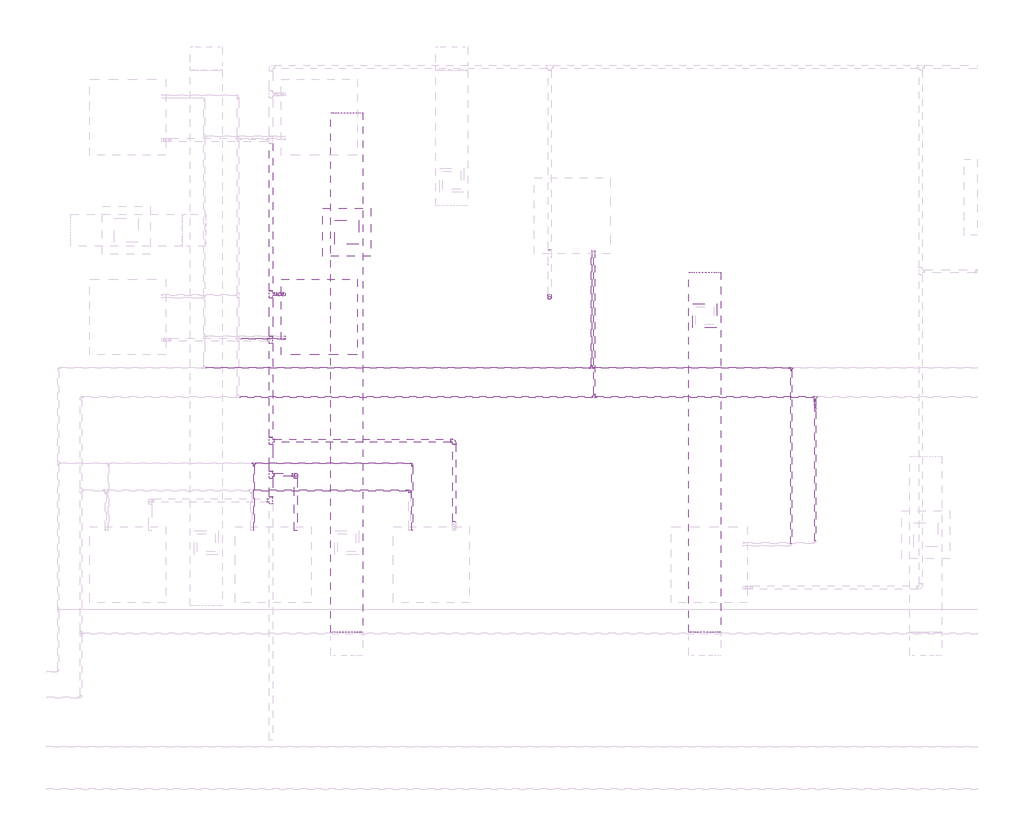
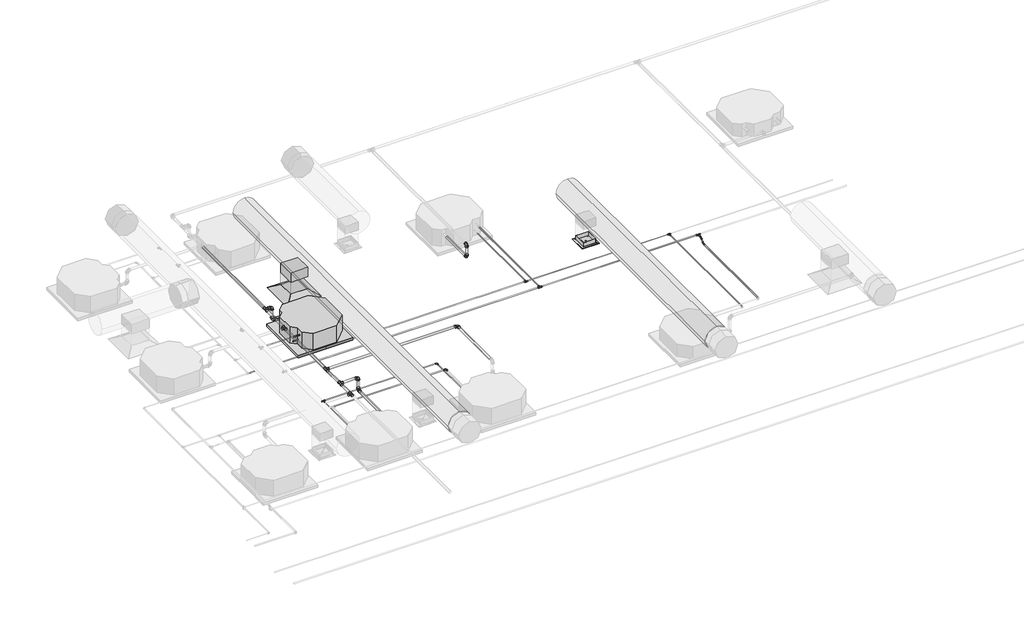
# One storey, part 15 of 22: 30 pipe fittings, 30 pipe segments, 3 duct segments, 2 air terminals, 1 duct fitting, 1 proxy.
"""IFC4 building model written with IfcOpenShell, lengths in millimetres."""

from ifc_helpers import new_model, si_unit, point, frame, frame_2d, origin, place, context, project, spatial, polyline, circle_curve, trimmed, segment, composite_curve, outline, extrude, transform, mapped, element, save
from components import air_terminal_ff221211, sdq3535_a75e83f7, mechanical_equipment_53173f38, duct_fitting_95c1ddea, pipe_fitting_144f4440, pipe_fitting_14eb6376, pipe_fitting_50f5d43d, pipe_fitting_337ff715, pipe_fitting_16c020f5, pipe_fitting_afe73776, pipe_fitting_a9265b51, pipe_fitting_09966660, pipe_fitting_64d0e8e9, pipe_fitting_501e5992, pipe_fitting_59d1f3e3, pipe_fitting_da16c1b3, pipe_fitting_3474c4ef, pipe_fitting_5a6d96d3, pipe_fitting_3e80353c

model = new_model("IFC4")

# Units and contexts
model_context = context("Model", 3, world=origin())
ifc_project = project(units=[si_unit("LENGTHUNIT", "METRE", prefix="MILLI")], contexts=[model_context])

# Site, building, storey
site = spatial("IfcSite", under=ifc_project)
building = spatial("IfcBuilding", under=site)
storey = spatial("IfcBuildingStorey", under=building, Name="Nível 2", Elevation=3880.0)

# Air terminals
placement = place(None, origin())
air_terminal_shape = air_terminal_ff221211(model_context)
element("IfcAirTerminal", 1, ObjectType="M_Difusor de fornecimento : 600 x 600 Face 300 x 300 Conexão", at=placement, inside=storey, context=model_context, shape_type="MappedRepresentation", body=[
    mapped(air_terminal_shape, transform((1245.4274207, 7440.3103139, 6880.0), x_axis=(1.0, 0.0, 0.0), y_axis=(0.0, 1.0, 0.0), z_axis=(0.0, 0.0, 1.0))),
])
sdq3535_shape = sdq3535_a75e83f7(model_context)
element("IfcAirTerminal", 2, ObjectType="11 - Difusor Quadrado : SDQ3535", at=placement, inside=storey, context=model_context, shape_type="MappedRepresentation", body=[
    mapped(sdq3535_shape, transform((5726.1234834, 6394.027526, 6880.0), x_axis=(1.0, 0.0, 0.0), y_axis=(0.0, 1.0, 0.0), z_axis=(0.0, 0.0, 1.0))),
])

# Proxy
mechanical_equipment_shape = mechanical_equipment_53173f38(model_context)
element("IfcBuildingElementProxy", 3, Name="Midea_VRF_Indoor_4-way Cassette_MI-90(100,112,140)Q4_DHN1-D (2nd DC) : MI2-140Q4DHN1", ObjectType="Midea_VRF_Indoor_4-way Cassette_MI-90(100,112,140)Q4_DHN1-D (2nd DC) : MI2-140Q4DHN1", at=placement, inside=storey, context=model_context, shape_type="MappedRepresentation", body=[
    mapped(mechanical_equipment_shape, transform((904.1415592, 6380.8653729, 6880.0), x_axis=(-1.0, 0.0, 0.0), y_axis=(0.0, -1.0, 0.0), z_axis=(0.0, 0.0, 1.0))),
])

# Duct fitting
duct_fitting_shape = duct_fitting_95c1ddea(model_context)
element("IfcDuctFitting", 4, ObjectType="M_Encaixe de duto retangular : Padrão", at=placement, inside=storey, context=model_context, shape_type="MappedRepresentation", body=[
    mapped(duct_fitting_shape, transform((1245.4274207, 7440.3103139, 7301.0), x_axis=(0.0, 0.0, -1.0), y_axis=(0.0, -1.0, 0.0), z_axis=(-1.0, 0.0, 0.0))),
])

# Duct segments
element("IfcDuctSegment", 5, ObjectType="Torneiras / Raio curto", at=placement, inside=storey, context=model_context, shape_type="SweptSolid", body=[
    extrude(outline(composite_curve([segment(trimmed(circle_curve(frame_2d((7501.0, 5726.1234834)), 200.0), [point((7501.0, 5926.1234834))], [point((7701.0, 5726.1234834))], False, "CARTESIAN"), True, "CONTINUOUS"), segment(trimmed(circle_curve(frame_2d((7501.0, 5726.1234834)), 200.0), [point((7701.0, 5726.1234834))], [point((7501.0, 5526.1234834))], False, "CARTESIAN"), True, "CONTINUOUS"), segment(trimmed(circle_curve(frame_2d((7501.0, 5726.1234834)), 200.0), [point((7501.0, 5526.1234834))], [point((7301.0, 5726.1234834))], False, "CARTESIAN"), True, "CONTINUOUS"), segment(trimmed(circle_curve(frame_2d((7501.0, 5726.1234834)), 200.0), [point((7301.0, 5726.1234834))], [point((7501.0, 5926.1234834))], False, "CARTESIAN"), True, "CONTINUOUS")], self_intersect=False)), frame((0.0, 2438.9539749, 0.0), z_axis=(0.0, 1.0, 0.0), x_axis=(0.0, 0.0, 1.0)), (0.0, 0.0, 1.0), 4498.4),
])
element("IfcDuctSegment", 6, ObjectType="Torneiras / Raio curto", at=placement, inside=storey, context=model_context, shape_type="SweptSolid", body=[
    extrude(outline(composite_curve([segment(trimmed(circle_curve(frame_2d((7501.0, 1245.4274207)), 200.0), [point((7501.0, 1445.4274207))], [point((7701.0, 1245.4274207))], False, "CARTESIAN"), True, "CONTINUOUS"), segment(trimmed(circle_curve(frame_2d((7501.0, 1245.4274207)), 200.0), [point((7701.0, 1245.4274207))], [point((7501.0, 1045.4274207))], False, "CARTESIAN"), True, "CONTINUOUS"), segment(trimmed(circle_curve(frame_2d((7501.0, 1245.4274207)), 200.0), [point((7501.0, 1045.4274207))], [point((7301.0, 1245.4274207))], False, "CARTESIAN"), True, "CONTINUOUS"), segment(trimmed(circle_curve(frame_2d((7501.0, 1245.4274207)), 200.0), [point((7301.0, 1245.4274207))], [point((7501.0, 1445.4274207))], False, "CARTESIAN"), True, "CONTINUOUS")], self_intersect=False)), frame((0.0, 2438.9539749, 0.0), z_axis=(0.0, 1.0, 0.0), x_axis=(0.0, 0.0, 1.0)), (0.0, 0.0, 1.0), 6498.4),
])
element("IfcDuctSegment", 7, ObjectType="Raios cotovelos / torneiras", at=placement, inside=storey, context=model_context, shape_type="SweptSolid", body=[
    extrude(outline(polyline([(1395.4274207, 7590.3103139), (1395.4274207, 7290.3103139), (1095.4274207, 7290.3103139), (1095.4274207, 7590.3103139), (1395.4274207, 7590.3103139)])), frame((0.0, 0.0, 6981.6), z_axis=(0.0, 0.0, 1.0), x_axis=(1.0, 0.0, 0.0)), (0.0, 0.0, 1.0), 217.8),
])

# Pipe fittings
pipe_fitting_shape = pipe_fitting_144f4440(model_context)
element("IfcPipeFitting", 8, ObjectType="Cotovelo - PVC - CW : Padrão", at=placement, inside=storey, context=model_context, shape_type="MappedRepresentation", body=[
    mapped(pipe_fitting_shape, transform((3783.0309344, 6622.3186987, 7360.6313654), x_axis=(0.0, 0.0, 1.0), y_axis=(0.0, 1.0, 0.0), z_axis=(-1.0, 0.0, 0.0))),
])
element("IfcPipeFitting", 9, ObjectType="Cotovelo - PVC - CW : Padrão", at=placement, inside=storey, context=model_context, shape_type="MappedRepresentation", body=[
    mapped(pipe_fitting_shape, transform((408.7418117, 6665.8653729, 7132.3085101), x_axis=(-1.0, 0.0, 0.0), y_axis=(0.0, 0.0, 1.0), z_axis=(0.0, 1.0, 0.0))),
])
element("IfcPipeFitting", 10, ObjectType="Cotovelo - PVC - CW : Padrão", at=placement, inside=storey, context=model_context, shape_type="MappedRepresentation", body=[
    mapped(pipe_fitting_shape, transform((408.7418117, 6665.8653729, 7360.6313654), x_axis=(0.0, 0.0, 1.0), y_axis=(-1.0, 0.0, 0.0), z_axis=(0.0, -1.0, 0.0))),
])
element("IfcPipeFitting", 11, ObjectType="Cotovelo - PVC - CW : Padrão", at=placement, inside=storey, context=model_context, shape_type="MappedRepresentation", body=[
    mapped(pipe_fitting_shape, transform((609.1415592, 4405.8653729, 7360.6313654), x_axis=(0.0, 0.0, 1.0), y_axis=(-1.0, 0.0, 0.0), z_axis=(0.0, -1.0, 0.0))),
])
element("IfcPipeFitting", 12, ObjectType="Cotovelo - PVC - CW : Padrão", at=placement, inside=storey, context=model_context, shape_type="MappedRepresentation", body=[
    mapped(pipe_fitting_shape, transform((2589.1415592, 4833.7830554, 7360.6313654), x_axis=(0.0, 1.0, 0.0), y_axis=(-1.0, 0.0, 0.0), z_axis=(0.0, 0.0, 1.0))),
])
pipe_fitting_2_shape = pipe_fitting_14eb6376(model_context)
element("IfcPipeFitting", 13, ObjectType="Tê de redução - PVC - CW : Padrão", at=placement, inside=storey, context=model_context, shape_type="MappedRepresentation", body=[
    mapped(pipe_fitting_2_shape, transform((297.3882959, 6665.8653729, 7360.6313654), x_axis=(0.0, 1.0, 0.0), y_axis=(-1.0, 0.0, 0.0), z_axis=(0.0, 0.0, 1.0))),
])
element("IfcPipeFitting", 14, ObjectType="Tê de redução - PVC - CW : Padrão", at=placement, inside=storey, context=model_context, shape_type="MappedRepresentation", body=[
    mapped(pipe_fitting_2_shape, transform((297.3882959, 6095.8653729, 7360.6313654), x_axis=(0.0, 1.0, 0.0), y_axis=(1.0, 0.0, 0.0), z_axis=(0.0, 0.0, -1.0))),
])
element("IfcPipeFitting", 15, ObjectType="Tê de redução - PVC - CW : Padrão", at=placement, inside=storey, context=model_context, shape_type="MappedRepresentation", body=[
    mapped(pipe_fitting_2_shape, transform((297.3882959, 4085.8653728, 7360.6313654), x_axis=(0.0, 1.0, 0.0), y_axis=(1.0, 0.0, 0.0), z_axis=(0.0, 0.0, -1.0))),
])
element("IfcPipeFitting", 16, ObjectType="Tê de redução - PVC - CW : Padrão", at=placement, inside=storey, context=model_context, shape_type="MappedRepresentation", body=[
    mapped(pipe_fitting_2_shape, transform((297.3882959, 4405.8653729, 7360.6313654), x_axis=(0.0, 1.0, 0.0), y_axis=(-1.0, 0.0, 0.0), z_axis=(0.0, 0.0, 1.0))),
])
element("IfcPipeFitting", 17, ObjectType="Tê de redução - PVC - CW : Padrão", at=placement, inside=storey, context=model_context, shape_type="MappedRepresentation", body=[
    mapped(pipe_fitting_2_shape, transform((297.3882959, 4833.7830554, 7360.6313654), x_axis=(0.0, 1.0, 0.0), y_axis=(-1.0, 0.0, 0.0), z_axis=(0.0, 0.0, 1.0))),
])
pipe_fitting_3_shape = pipe_fitting_50f5d43d(model_context)
element("IfcPipeFitting", 18, ObjectType="Cotovelo - PVC - CW : Padrão", at=placement, inside=storey, context=model_context, shape_type="MappedRepresentation", body=[
    mapped(pipe_fitting_3_shape, transform((3783.0309344, 6622.3186987, 7132.3), x_axis=(0.0, -0.9999999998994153, -1.418342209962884e-05), y_axis=(0.0, -1.418342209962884e-05, 0.9999999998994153), z_axis=(-1.0, 0.0, 0.0))),
])
pipe_fitting_4_shape = pipe_fitting_337ff715(model_context)
element("IfcPipeFitting", 19, ObjectType="Cotovelo - PVC - CW : Padrão", at=placement, inside=storey, context=model_context, shape_type="MappedRepresentation", body=[
    mapped(pipe_fitting_4_shape, transform((609.1415592, 4405.8653729, 7132.3), x_axis=(0.0, 0.9999999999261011, -1.2157218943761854e-05), y_axis=(0.0, 1.2157218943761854e-05, 0.9999999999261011), z_axis=(1.0, 0.0, 0.0))),
])
pipe_fitting_5_shape = pipe_fitting_16c020f5(model_context)
element("IfcPipeFitting", 20, ObjectType="Cotovelo - Soldado - CU : Padrão", at=placement, inside=storey, context=model_context, shape_type="MappedRepresentation", body=[
    mapped(pipe_fitting_5_shape, transform((2030.9307455, 4212.8510207, 7132.3), x_axis=(0.0, 0.9999999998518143, -1.7215441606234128e-05), y_axis=(-1.0, 0.0, 0.0), z_axis=(0.0, 1.7215441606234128e-05, 0.9999999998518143))),
])
pipe_fitting_6_shape = pipe_fitting_afe73776(model_context)
element("IfcPipeFitting", 21, ObjectType="Bucha de redução reta - Soldada - CU : Padrão", at=placement, inside=storey, context=model_context, shape_type="MappedRepresentation", body=[
    mapped(pipe_fitting_6_shape, transform((4341.241748, 5410.19297, 7132.3001605), x_axis=(0.0, 0.9999999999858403, 5.321602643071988e-06), y_axis=(-1.0, 0.0, 0.0), z_axis=(0.0, -5.321602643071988e-06, 0.9999999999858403))),
])
element("IfcPipeFitting", 22, ObjectType="Bucha de redução reta - Soldada - CU : Padrão", at=placement, inside=storey, context=model_context, shape_type="MappedRepresentation", body=[
    mapped(pipe_fitting_6_shape, transform((7104.8254008, 5340.0407531, 7132.3), x_axis=(0.0, -1.0, 0.0), y_axis=(1.0, 0.0, 0.0), z_axis=(0.0, 0.0, 1.0))),
])
pipe_fitting_7_shape = pipe_fitting_a9265b51(model_context)
element("IfcPipeFitting", 23, ObjectType="Cotovelo - Soldado - CU : Padrão", at=placement, inside=storey, context=model_context, shape_type="MappedRepresentation", body=[
    mapped(pipe_fitting_7_shape, transform((7104.8254008, 5298.4032531, 7132.3), x_axis=(0.0, -1.0, 0.0), y_axis=(0.0, 0.0, -1.0), z_axis=(1.0, 0.0, 0.0))),
])
element("IfcPipeFitting", 24, ObjectType="Cotovelo - Soldado - CU : Padrão", at=placement, inside=storey, context=model_context, shape_type="MappedRepresentation", body=[
    mapped(pipe_fitting_7_shape, transform((7104.8254008, 5228.4032531, 7062.3), x_axis=(0.0, -0.7071067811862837, -0.7071067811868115), y_axis=(0.0, -0.7071067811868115, 0.7071067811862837), z_axis=(-1.0, 0.0, 0.0))),
])
pipe_fitting_8_shape = pipe_fitting_09966660(model_context)
element("IfcPipeFitting", 25, ObjectType="Tê - Soldado - CU : Padrão", at=placement, inside=storey, context=model_context, shape_type="MappedRepresentation", body=[
    mapped(pipe_fitting_8_shape, transform((4341.241748, 5380.03247, 7132.3), x_axis=(-1.0, 0.0, 0.0), y_axis=(0.0, -0.9999999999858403, -5.321602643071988e-06), z_axis=(0.0, -5.321602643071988e-06, 0.9999999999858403))),
])
element("IfcPipeFitting", 26, ObjectType="Tê - Soldado - CU : Padrão", at=placement, inside=storey, context=model_context, shape_type="MappedRepresentation", body=[
    mapped(pipe_fitting_8_shape, transform((7104.8254008, 5380.03247, 7132.3), x_axis=(-1.0, 0.0, 0.0), y_axis=(0.0, 1.0, 0.0), z_axis=(0.0, 0.0, -1.0))),
])
pipe_fitting_9_shape = pipe_fitting_64d0e8e9(model_context)
element("IfcPipeFitting", 27, ObjectType="Bucha de redução reta - Soldada - CU : Padrão", at=placement, inside=storey, context=model_context, shape_type="MappedRepresentation", body=[
    mapped(pipe_fitting_9_shape, transform((2001.9521455, 4212.8510207, 7132.3), x_axis=(-1.0, 0.0, 0.0), y_axis=(0.0, -0.9999999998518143, 1.7215441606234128e-05), z_axis=(0.0, 1.7215441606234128e-05, 0.9999999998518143))),
])
pipe_fitting_10_shape = pipe_fitting_501e5992(model_context)
element("IfcPipeFitting", 28, ObjectType="Bucha de redução reta - Soldada - CU : Padrão", at=placement, inside=storey, context=model_context, shape_type="MappedRepresentation", body=[
    mapped(pipe_fitting_10_shape, transform((466.4826592, 6107.6545593, 7132.3083789), x_axis=(0.9999999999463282, 0.0, 1.0360678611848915e-05), y_axis=(0.0, 1.0, 0.0), z_axis=(-1.0360678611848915e-05, 0.0, 0.9999999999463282))),
])
pipe_fitting_11_shape = pipe_fitting_59d1f3e3(model_context)
element("IfcPipeFitting", 29, ObjectType="Bucha de redução reta - Soldada - CU : Padrão", at=placement, inside=storey, context=model_context, shape_type="MappedRepresentation", body=[
    mapped(pipe_fitting_11_shape, transform((479.1415592, 6141.4570011, 7026.8446487), x_axis=(-1.0, 0.0, 0.0), y_axis=(0.0, -1.0, 0.0), z_axis=(0.0, 0.0, 1.0))),
])
pipe_fitting_12_shape = pipe_fitting_da16c1b3(model_context)
element("IfcPipeFitting", 30, ObjectType="Tê - Soldado - CU : Padrão", at=placement, inside=storey, context=model_context, shape_type="MappedRepresentation", body=[
    mapped(pipe_fitting_12_shape, transform((6804.8254008, 5743.0785153, 7026.8446487), x_axis=(1.0, 0.0, 0.0), y_axis=(0.0, 1.0, 0.0), z_axis=(0.0, 0.0, 1.0))),
])
element("IfcPipeFitting", 31, ObjectType="Tê - Soldado - CU : Padrão", at=placement, inside=storey, context=model_context, shape_type="MappedRepresentation", body=[
    mapped(pipe_fitting_12_shape, transform((4307.4393062, 5743.0785153, 7026.8446487), x_axis=(1.0, 0.0, 0.0), y_axis=(0.0, -1.0, 0.0), z_axis=(0.0, 0.0, -1.0))),
])
element("IfcPipeFitting", 32, ObjectType="Tê - Soldado - CU : Padrão", at=placement, inside=storey, context=model_context, shape_type="MappedRepresentation", body=[
    mapped(pipe_fitting_12_shape, transform((84.7331873, 4550.568265, 7026.8446487), x_axis=(-1.0, 0.0, 0.0), y_axis=(0.0, 1.0, 0.0), z_axis=(0.0, 0.0, -1.0))),
])
pipe_fitting_13_shape = pipe_fitting_3474c4ef(model_context)
element("IfcPipeFitting", 33, ObjectType="Bucha de redução reta - Soldada - CU : Padrão", at=placement, inside=storey, context=model_context, shape_type="MappedRepresentation", body=[
    mapped(pipe_fitting_13_shape, transform((4307.4393062, 5768.0955153, 7026.8446487), x_axis=(0.0, 1.0, 0.0), y_axis=(-1.0, 0.0, 0.0), z_axis=(0.0, 0.0, 1.0))),
])
pipe_fitting_14_shape = pipe_fitting_5a6d96d3(model_context)
element("IfcPipeFitting", 34, ObjectType="Bucha de redução reta - Soldada - CU : Padrão", at=placement, inside=storey, context=model_context, shape_type="MappedRepresentation", body=[
    mapped(pipe_fitting_14_shape, transform((6804.8254008, 5718.0615153, 7026.8446487), x_axis=(0.0, -1.0, 0.0), y_axis=(1.0, 0.0, 0.0), z_axis=(0.0, 0.0, 1.0))),
])
element("IfcPipeFitting", 35, ObjectType="Bucha de redução reta - Soldada - CU : Padrão", at=placement, inside=storey, context=model_context, shape_type="MappedRepresentation", body=[
    mapped(pipe_fitting_14_shape, transform((2064.7331873, 4524.062265, 7026.8446487), x_axis=(0.0, -1.0, 0.0), y_axis=(1.0, 0.0, 0.0), z_axis=(0.0, 0.0, 1.0))),
])
element("IfcPipeFitting", 36, ObjectType="Bucha de redução reta - Soldada - CU : Padrão", at=placement, inside=storey, context=model_context, shape_type="MappedRepresentation", body=[
    mapped(pipe_fitting_14_shape, transform((84.7331873, 4525.551265, 7026.8446487), x_axis=(0.0, -1.0, 0.0), y_axis=(1.0, 0.0, 0.0), z_axis=(0.0, 0.0, 1.0))),
])
pipe_fitting_15_shape = pipe_fitting_3e80353c(model_context)
element("IfcPipeFitting", 37, ObjectType="Cotovelo - Soldado - CU : Padrão", at=placement, inside=storey, context=model_context, shape_type="MappedRepresentation", body=[
    mapped(pipe_fitting_15_shape, transform((2064.7331873, 4550.568265, 7026.8446487), x_axis=(0.0, 1.0, 0.0), y_axis=(-1.0, 0.0, 0.0), z_axis=(0.0, 0.0, 1.0))),
])

# Pipe segments
element("IfcPipeSegment", 38, ObjectType="Tubos de cobre HVAC", at=placement, inside=storey, context=model_context, shape_type="SweptSolid", body=[
    extrude(outline(composite_curve([segment(trimmed(circle_curve(frame_2d((7062.3, 7104.8254008)), 7.935), [point((7062.3, 7112.7604008))], [point((7070.235, 7104.8254008))], False, "CARTESIAN"), True, "CONTINUOUS"), segment(trimmed(circle_curve(frame_2d((7062.3, 7104.8254008)), 7.935), [point((7070.235, 7104.8254008))], [point((7062.3, 7096.8904008))], False, "CARTESIAN"), True, "CONTINUOUS"), segment(trimmed(circle_curve(frame_2d((7062.3, 7104.8254008)), 7.935), [point((7062.3, 7096.8904008))], [point((7054.365, 7104.8254008))], False, "CARTESIAN"), True, "CONTINUOUS"), segment(trimmed(circle_curve(frame_2d((7062.3, 7104.8254008)), 7.935), [point((7054.365, 7104.8254008))], [point((7062.3, 7112.7604008))], False, "CARTESIAN"), True, "CONTINUOUS")], self_intersect=False)), frame((0.0, 3583.0547866, 0.0), z_axis=(0.0, 1.0, 0.0), x_axis=(0.0, 0.0, 1.0)), (0.0, 0.0, 1.0), 1616.3698665),
])
element("IfcPipeSegment", 39, ObjectType="Tubos de cobre HVAC", at=placement, inside=storey, context=model_context, shape_type="SweptSolid", body=[
    extrude(outline(composite_curve([segment(trimmed(circle_curve(frame_2d((0.0, 7.935)), 7.935), [point((0.0, 15.87))], [point((7.935, 7.935))], False, "CARTESIAN"), True, "CONTINUOUS"), segment(trimmed(circle_curve(frame_2d((0.0, 7.935)), 7.935), [point((7.935, 7.935))], [point((0.0, 0.0))], False, "CARTESIAN"), True, "CONTINUOUS"), segment(trimmed(circle_curve(frame_2d((0.0, 7.935)), 7.935), [point((0.0, 0.0))], [point((-7.935, 7.935))], False, "CARTESIAN"), True, "CONTINUOUS"), segment(trimmed(circle_curve(frame_2d((0.0, 7.935)), 7.935), [point((-7.935, 7.935))], [point((0.0, 15.87))], False, "CARTESIAN"), True, "CONTINUOUS")], self_intersect=False)), frame((4333.306748, 5422.85187, 7132.3002279), z_axis=(0.0, 0.9999999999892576, 4.635185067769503e-06), x_axis=(0.0, -4.635185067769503e-06, 0.9999999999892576)), (0.0, 0.0, 1.0), 1786.8079288),
])
element("IfcPipeSegment", 40, ObjectType="Tubos de cobre HVAC", at=placement, inside=storey, context=model_context, shape_type="SweptSolid", body=[
    extrude(outline(composite_curve([segment(trimmed(circle_curve(frame_2d((5380.03247, 7132.3)), 9.525), [point((5370.50747, 7132.3))], [point((5380.03247, 7141.825))], False, "CARTESIAN"), True, "CONTINUOUS"), segment(trimmed(circle_curve(frame_2d((5380.03247, 7132.3)), 9.525), [point((5380.03247, 7141.825))], [point((5389.55747, 7132.3))], False, "CARTESIAN"), True, "CONTINUOUS"), segment(trimmed(circle_curve(frame_2d((5380.03247, 7132.3)), 9.525), [point((5389.55747, 7132.3))], [point((5380.03247, 7122.775))], False, "CARTESIAN"), True, "CONTINUOUS"), segment(trimmed(circle_curve(frame_2d((5380.03247, 7132.3)), 9.525), [point((5380.03247, 7122.775))], [point((5370.50747, 7132.3))], False, "CARTESIAN"), True, "CONTINUOUS")], self_intersect=False)), frame((-84.7020001, 0.0, 0.0), z_axis=(1.0, 0.0, 0.0), x_axis=(0.0, 1.0, 0.0)), (0.0, 0.0, 1.0), 4395.7484981),
])
element("IfcPipeSegment", 41, ObjectType="Tubos de cobre HVAC", at=placement, inside=storey, context=model_context, shape_type="SweptSolid", body=[
    extrude(outline(composite_curve([segment(trimmed(circle_curve(frame_2d((0.0, 7.935)), 7.935), [point((-7.935, 7.935))], [point((0.0, 15.87))], False, "CARTESIAN"), True, "CONTINUOUS"), segment(trimmed(circle_curve(frame_2d((0.0, 7.935)), 7.935), [point((0.0, 15.87))], [point((7.935, 7.935))], False, "CARTESIAN"), True, "CONTINUOUS"), segment(trimmed(circle_curve(frame_2d((0.0, 7.935)), 7.935), [point((7.935, 7.935))], [point((0.0, 0.0))], False, "CARTESIAN"), True, "CONTINUOUS"), segment(trimmed(circle_curve(frame_2d((0.0, 7.935)), 7.935), [point((0.0, 0.0))], [point((-7.935, 7.935))], False, "CARTESIAN"), True, "CONTINUOUS")], self_intersect=False)), frame((-72.0777312, 6107.6545593, 7124.3654436), z_axis=(0.9999999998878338, 0.0, 1.4977732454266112e-05), x_axis=(0.0, 1.0, 0.0)), (0.0, 0.0, 1.0), 538.5605093),
])
element("IfcPipeSegment", 42, ObjectType="Tubos de cobre HVAC", at=placement, inside=storey, context=model_context, shape_type="SweptSolid", body=[
    extrude(outline(composite_curve([segment(trimmed(circle_curve(frame_2d((0.0, 9.525)), 9.525), [point((-9.525, 9.525))], [point((0.0, 19.05))], False, "CARTESIAN"), True, "CONTINUOUS"), segment(trimmed(circle_curve(frame_2d((0.0, 9.525)), 9.525), [point((0.0, 19.05))], [point((9.525, 9.525))], False, "CARTESIAN"), True, "CONTINUOUS"), segment(trimmed(circle_curve(frame_2d((0.0, 9.525)), 9.525), [point((9.525, 9.525))], [point((0.0, 0.0))], False, "CARTESIAN"), True, "CONTINUOUS"), segment(trimmed(circle_curve(frame_2d((0.0, 9.525)), 9.525), [point((0.0, 0.0))], [point((-9.525, 9.525))], False, "CARTESIAN"), True, "CONTINUOUS")], self_intersect=False)), frame((81.1259955, 4212.8510207, 7122.7747821), z_axis=(1.0, 1.9669266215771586e-12, 0.0), x_axis=(-1.9669266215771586e-12, 1.0, 0.0)), (0.0, 0.0, 1.0), 1908.16725),
])
element("IfcPipeSegment", 43, ObjectType="Tubos de cobre HVAC", at=placement, inside=storey, context=model_context, shape_type="SweptSolid", body=[
    extrude(outline(composite_curve([segment(trimmed(circle_curve(frame_2d((7026.8446487, 6804.8254008)), 4.76), [point((7026.8446487, 6800.0654008))], [point((7022.0846487, 6804.8254008))], False, "CARTESIAN"), True, "CONTINUOUS"), segment(trimmed(circle_curve(frame_2d((7026.8446487, 6804.8254008)), 4.76), [point((7022.0846487, 6804.8254008))], [point((7026.8446487, 6809.5854008))], False, "CARTESIAN"), True, "CONTINUOUS"), segment(trimmed(circle_curve(frame_2d((7026.8446487, 6804.8254008)), 4.76), [point((7026.8446487, 6809.5854008))], [point((7031.6046487, 6804.8254008))], False, "CARTESIAN"), True, "CONTINUOUS"), segment(trimmed(circle_curve(frame_2d((7026.8446487, 6804.8254008)), 4.76), [point((7031.6046487, 6804.8254008))], [point((7026.8446487, 6800.0654008))], False, "CARTESIAN"), True, "CONTINUOUS")], self_intersect=False)), frame((0.0, 3544.2993448, 0.0), z_axis=(0.0, 1.0, 0.0), x_axis=(0.0, 0.0, 1.0)), (0.0, 0.0, 1.0), 2164.0877705),
])
element("IfcPipeSegment", 44, ObjectType="Tubos de cobre HVAC", at=placement, inside=storey, context=model_context, shape_type="SweptSolid", body=[
    extrude(outline(composite_curve([segment(trimmed(circle_curve(frame_2d((7026.8446487, 4307.4393062)), 4.76), [point((7026.8446487, 4312.1993062))], [point((7031.6046487, 4307.4393062))], False, "CARTESIAN"), True, "CONTINUOUS"), segment(trimmed(circle_curve(frame_2d((7026.8446487, 4307.4393062)), 4.76), [point((7031.6046487, 4307.4393062))], [point((7026.8446487, 4302.6793062))], False, "CARTESIAN"), True, "CONTINUOUS"), segment(trimmed(circle_curve(frame_2d((7026.8446487, 4307.4393062)), 4.76), [point((7026.8446487, 4302.6793062))], [point((7022.0846487, 4307.4393062))], False, "CARTESIAN"), True, "CONTINUOUS"), segment(trimmed(circle_curve(frame_2d((7026.8446487, 4307.4393062)), 4.76), [point((7022.0846487, 4307.4393062))], [point((7026.8446487, 4312.1993062))], False, "CARTESIAN"), True, "CONTINUOUS")], self_intersect=False)), frame((0.0, 5777.9955153, 0.0), z_axis=(0.0, 1.0, 0.0), x_axis=(0.0, 0.0, 1.0)), (0.0, 0.0, 1.0), 1434.6440834),
])
element("IfcPipeSegment", 45, ObjectType="Tubos de cobre HVAC", at=placement, inside=storey, context=model_context, shape_type="SweptSolid", body=[
    extrude(outline(composite_curve([segment(trimmed(circle_curve(frame_2d((5743.0785153, 7026.8446487)), 6.35), [point((5749.4285153, 7026.8446487))], [point((5743.0785153, 7020.4946487))], False, "CARTESIAN"), True, "CONTINUOUS"), segment(trimmed(circle_curve(frame_2d((5743.0785153, 7026.8446487)), 6.35), [point((5743.0785153, 7020.4946487))], [point((5736.7285153, 7026.8446487))], False, "CARTESIAN"), True, "CONTINUOUS"), segment(trimmed(circle_curve(frame_2d((5743.0785153, 7026.8446487)), 6.35), [point((5736.7285153, 7026.8446487))], [point((5743.0785153, 7033.1946487))], False, "CARTESIAN"), True, "CONTINUOUS"), segment(trimmed(circle_curve(frame_2d((5743.0785153, 7026.8446487)), 6.35), [point((5743.0785153, 7033.1946487))], [point((5749.4285153, 7026.8446487))], False, "CARTESIAN"), True, "CONTINUOUS")], self_intersect=False)), frame((4332.5228062, 0.0, 0.0), z_axis=(1.0, 0.0, 0.0), x_axis=(0.0, 1.0, 0.0)), (0.0, 0.0, 1.0), 2447.2190946),
])
element("IfcPipeSegment", 46, ObjectType="Tubos de cobre HVAC", at=placement, inside=storey, context=model_context, shape_type="SweptSolid", body=[
    extrude(outline(composite_curve([segment(trimmed(circle_curve(frame_2d((5743.0785153, 7026.8446487)), 6.35), [point((5749.4285153, 7026.8446487))], [point((5743.0785153, 7020.4946487))], False, "CARTESIAN"), True, "CONTINUOUS"), segment(trimmed(circle_curve(frame_2d((5743.0785153, 7026.8446487)), 6.35), [point((5743.0785153, 7020.4946487))], [point((5736.7285153, 7026.8446487))], False, "CARTESIAN"), True, "CONTINUOUS"), segment(trimmed(circle_curve(frame_2d((5743.0785153, 7026.8446487)), 6.35), [point((5736.7285153, 7026.8446487))], [point((5743.0785153, 7033.1946487))], False, "CARTESIAN"), True, "CONTINUOUS"), segment(trimmed(circle_curve(frame_2d((5743.0785153, 7026.8446487)), 6.35), [point((5743.0785153, 7033.1946487))], [point((5749.4285153, 7026.8446487))], False, "CARTESIAN"), True, "CONTINUOUS")], self_intersect=False)), frame((-509.8164659, 0.0, 0.0), z_axis=(1.0, 0.0, 0.0), x_axis=(0.0, 1.0, 0.0)), (0.0, 0.0, 1.0), 4792.1722721),
])
element("IfcPipeSegment", 47, ObjectType="Tubos de cobre HVAC", at=placement, inside=storey, context=model_context, shape_type="SweptSolid", body=[
    extrude(outline(composite_curve([segment(trimmed(circle_curve(frame_2d((4550.568265, 7026.8446487)), 6.35), [point((4544.218265, 7026.8446487))], [point((4550.568265, 7033.1946487))], False, "CARTESIAN"), True, "CONTINUOUS"), segment(trimmed(circle_curve(frame_2d((4550.568265, 7026.8446487)), 6.35), [point((4550.568265, 7033.1946487))], [point((4556.918265, 7026.8446487))], False, "CARTESIAN"), True, "CONTINUOUS"), segment(trimmed(circle_curve(frame_2d((4550.568265, 7026.8446487)), 6.35), [point((4556.918265, 7026.8446487))], [point((4550.568265, 7020.4946487))], False, "CARTESIAN"), True, "CONTINUOUS"), segment(trimmed(circle_curve(frame_2d((4550.568265, 7026.8446487)), 6.35), [point((4550.568265, 7020.4946487))], [point((4544.218265, 7026.8446487))], False, "CARTESIAN"), True, "CONTINUOUS")], self_intersect=False)), frame((109.8166873, 0.0, 0.0), z_axis=(1.0, 0.0, 0.0), x_axis=(0.0, 1.0, 0.0)), (0.0, 0.0, 1.0), 1928.4105),
])
element("IfcPipeSegment", 48, ObjectType="Tubos de cobre HVAC", at=placement, inside=storey, context=model_context, shape_type="SweptSolid", body=[
    extrude(outline(composite_curve([segment(trimmed(circle_curve(frame_2d((7026.8446487, 2064.7331873)), 4.76), [point((7026.8446487, 2059.9731873))], [point((7022.0846487, 2064.7331873))], False, "CARTESIAN"), True, "CONTINUOUS"), segment(trimmed(circle_curve(frame_2d((7026.8446487, 2064.7331873)), 4.76), [point((7022.0846487, 2064.7331873))], [point((7026.8446487, 2069.4931873))], False, "CARTESIAN"), True, "CONTINUOUS"), segment(trimmed(circle_curve(frame_2d((7026.8446487, 2064.7331873)), 4.76), [point((7026.8446487, 2069.4931873))], [point((7031.6046487, 2064.7331873))], False, "CARTESIAN"), True, "CONTINUOUS"), segment(trimmed(circle_curve(frame_2d((7026.8446487, 2064.7331873)), 4.76), [point((7031.6046487, 2064.7331873))], [point((7026.8446487, 2059.9731873))], False, "CARTESIAN"), True, "CONTINUOUS")], self_intersect=False)), frame((0.0, 3715.5397729, 0.0), z_axis=(0.0, 1.0, 0.0), x_axis=(0.0, 0.0, 1.0)), (0.0, 0.0, 1.0), 798.8480921),
])
element("IfcPipeSegment", 49, ObjectType="Tubos de cobre HVAC", at=placement, inside=storey, context=model_context, shape_type="SweptSolid", body=[
    extrude(outline(composite_curve([segment(trimmed(circle_curve(frame_2d((7026.8446487, 84.7331873)), 4.76), [point((7026.8446487, 79.9731873))], [point((7022.0846487, 84.7331873))], False, "CARTESIAN"), True, "CONTINUOUS"), segment(trimmed(circle_curve(frame_2d((7026.8446487, 84.7331873)), 4.76), [point((7022.0846487, 84.7331873))], [point((7026.8446487, 89.4931873))], False, "CARTESIAN"), True, "CONTINUOUS"), segment(trimmed(circle_curve(frame_2d((7026.8446487, 84.7331873)), 4.76), [point((7026.8446487, 89.4931873))], [point((7031.6046487, 84.7331873))], False, "CARTESIAN"), True, "CONTINUOUS"), segment(trimmed(circle_curve(frame_2d((7026.8446487, 84.7331873)), 4.76), [point((7031.6046487, 84.7331873))], [point((7026.8446487, 79.9731873))], False, "CARTESIAN"), True, "CONTINUOUS")], self_intersect=False)), frame((0.0, 3715.5397729, 0.0), z_axis=(0.0, 1.0, 0.0), x_axis=(0.0, 0.0, 1.0)), (0.0, 0.0, 1.0), 800.3370921),
])
element("IfcPipeSegment", 50, ObjectType="Plástico", at=placement, inside=storey, context=model_context, shape_type="SweptSolid", body=[
    extrude(outline(composite_curve([segment(trimmed(circle_curve(frame_2d((0.0, -20.0)), 20.0), [point((0.0, 0.0))], [point((20.0, -20.0))], False, "CARTESIAN"), True, "CONTINUOUS"), segment(trimmed(circle_curve(frame_2d((0.0, -20.0)), 20.0), [point((20.0, -20.0))], [point((0.0, -40.0))], False, "CARTESIAN"), True, "CONTINUOUS"), segment(trimmed(circle_curve(frame_2d((0.0, -20.0)), 20.0), [point((0.0, -40.0))], [point((-20.0, -20.0))], False, "CARTESIAN"), True, "CONTINUOUS"), segment(trimmed(circle_curve(frame_2d((0.0, -20.0)), 20.0), [point((-20.0, -20.0))], [point((0.0, 0.0))], False, "CARTESIAN"), True, "CONTINUOUS")], self_intersect=False)), frame((3763.0309344, 6667.3190249, 7132.3006383), z_axis=(0.0, 0.9999999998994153, 1.418342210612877e-05), x_axis=(0.0, 1.418342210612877e-05, -0.9999999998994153)), (0.0, 0.0, 1.0), 554.9996738),
])
element("IfcPipeSegment", 51, ObjectType="Plástico", at=placement, inside=storey, context=model_context, shape_type="SweptSolid", body=[
    extrude(outline(composite_curve([segment(trimmed(circle_curve(frame_2d((3783.0309344, 6622.3186987)), 20.0), [point((3803.0309344, 6622.3186987))], [point((3783.0309344, 6602.3186987))], False, "CARTESIAN"), True, "CONTINUOUS"), segment(trimmed(circle_curve(frame_2d((3783.0309344, 6622.3186987)), 20.0), [point((3783.0309344, 6602.3186987))], [point((3763.0309344, 6622.3186987))], False, "CARTESIAN"), True, "CONTINUOUS"), segment(trimmed(circle_curve(frame_2d((3783.0309344, 6622.3186987)), 20.0), [point((3763.0309344, 6622.3186987))], [point((3783.0309344, 6642.3186987))], False, "CARTESIAN"), True, "CONTINUOUS"), segment(trimmed(circle_curve(frame_2d((3783.0309344, 6622.3186987)), 20.0), [point((3783.0309344, 6642.3186987))], [point((3803.0309344, 6622.3186987))], False, "CARTESIAN"), True, "CONTINUOUS")], self_intersect=False)), frame((0.0, 0.0, 7177.3003262), z_axis=(0.0, 0.0, 1.0), x_axis=(1.0, 0.0, 0.0)), (0.0, 0.0, 1.0), 138.3310392),
])
element("IfcPipeSegment", 52, ObjectType="Plástico", at=placement, inside=storey, context=model_context, shape_type="SweptSolid", body=[
    extrude(outline(composite_curve([segment(trimmed(circle_curve(frame_2d((6665.8653729, 7360.6313654)), 20.0), [point((6685.8653729, 7360.6313654))], [point((6665.8653729, 7340.6313654))], False, "CARTESIAN"), True, "CONTINUOUS"), segment(trimmed(circle_curve(frame_2d((6665.8653729, 7360.6313654)), 20.0), [point((6665.8653729, 7340.6313654))], [point((6645.8653729, 7360.6313654))], False, "CARTESIAN"), True, "CONTINUOUS"), segment(trimmed(circle_curve(frame_2d((6665.8653729, 7360.6313654)), 20.0), [point((6645.8653729, 7360.6313654))], [point((6665.8653729, 7380.6313654))], False, "CARTESIAN"), True, "CONTINUOUS"), segment(trimmed(circle_curve(frame_2d((6665.8653729, 7360.6313654)), 20.0), [point((6665.8653729, 7380.6313654))], [point((6685.8653729, 7360.6313654))], False, "CARTESIAN"), True, "CONTINUOUS")], self_intersect=False)), frame((341.3882959, 0.0, 0.0), z_axis=(1.0, 0.0, 0.0), x_axis=(0.0, 1.0, 0.0)), (0.0, 0.0, 1.0), 22.3535158),
])
element("IfcPipeSegment", 53, ObjectType="Plástico", at=placement, inside=storey, context=model_context, shape_type="SweptSolid", body=[
    extrude(outline(composite_curve([segment(trimmed(circle_curve(frame_2d((6665.8653729, 7132.3085101)), 20.0), [point((6685.8653729, 7132.3085101))], [point((6665.8653729, 7112.3085101))], False, "CARTESIAN"), True, "CONTINUOUS"), segment(trimmed(circle_curve(frame_2d((6665.8653729, 7132.3085101)), 20.0), [point((6665.8653729, 7112.3085101))], [point((6645.8653729, 7132.3085101))], False, "CARTESIAN"), True, "CONTINUOUS"), segment(trimmed(circle_curve(frame_2d((6665.8653729, 7132.3085101)), 20.0), [point((6645.8653729, 7132.3085101))], [point((6665.8653729, 7152.3085101))], False, "CARTESIAN"), True, "CONTINUOUS"), segment(trimmed(circle_curve(frame_2d((6665.8653729, 7132.3085101)), 20.0), [point((6665.8653729, 7152.3085101))], [point((6685.8653729, 7132.3085101))], False, "CARTESIAN"), True, "CONTINUOUS")], self_intersect=False)), frame((453.7418117, 0.0, 0.0), z_axis=(1.0, 0.0, 0.0), x_axis=(0.0, 1.0, 0.0)), (0.0, 0.0, 1.0), 25.3997474),
])
element("IfcPipeSegment", 54, ObjectType="Plástico", at=placement, inside=storey, context=model_context, shape_type="SweptSolid", body=[
    extrude(outline(composite_curve([segment(trimmed(circle_curve(frame_2d((408.7418117, 6665.8653729)), 20.0), [point((388.7418117, 6665.8653729))], [point((408.7418117, 6685.8653729))], False, "CARTESIAN"), True, "CONTINUOUS"), segment(trimmed(circle_curve(frame_2d((408.7418117, 6665.8653729)), 20.0), [point((408.7418117, 6685.8653729))], [point((428.7418117, 6665.8653729))], False, "CARTESIAN"), True, "CONTINUOUS"), segment(trimmed(circle_curve(frame_2d((408.7418117, 6665.8653729)), 20.0), [point((428.7418117, 6665.8653729))], [point((408.7418117, 6645.8653729))], False, "CARTESIAN"), True, "CONTINUOUS"), segment(trimmed(circle_curve(frame_2d((408.7418117, 6665.8653729)), 20.0), [point((408.7418117, 6645.8653729))], [point((388.7418117, 6665.8653729))], False, "CARTESIAN"), True, "CONTINUOUS")], self_intersect=False)), frame((0.0, 0.0, 7177.3085101), z_axis=(0.0, 0.0, 1.0), x_axis=(1.0, 0.0, 0.0)), (0.0, 0.0, 1.0), 138.3228554),
])
element("IfcPipeSegment", 55, ObjectType="Plástico", at=placement, inside=storey, context=model_context, shape_type="SweptSolid", body=[
    extrude(outline(composite_curve([segment(trimmed(circle_curve(frame_2d((7360.6313654, 297.3882959)), 20.0), [point((7360.6313654, 277.3882959))], [point((7340.6313654, 297.3882959))], False, "CARTESIAN"), True, "CONTINUOUS"), segment(trimmed(circle_curve(frame_2d((7360.6313654, 297.3882959)), 20.0), [point((7340.6313654, 297.3882959))], [point((7360.6313654, 317.3882959))], False, "CARTESIAN"), True, "CONTINUOUS"), segment(trimmed(circle_curve(frame_2d((7360.6313654, 297.3882959)), 20.0), [point((7360.6313654, 317.3882959))], [point((7380.6313654, 297.3882959))], False, "CARTESIAN"), True, "CONTINUOUS"), segment(trimmed(circle_curve(frame_2d((7360.6313654, 297.3882959)), 20.0), [point((7380.6313654, 297.3882959))], [point((7360.6313654, 277.3882959))], False, "CARTESIAN"), True, "CONTINUOUS")], self_intersect=False)), frame((0.0, 6709.1153729, 0.0), z_axis=(0.0, 1.0, 0.0), x_axis=(0.0, 0.0, 1.0)), (0.0, 0.0, 1.0), 1843.5),
])
element("IfcPipeSegment", 56, ObjectType="Plástico", at=placement, inside=storey, context=model_context, shape_type="SweptSolid", body=[
    extrude(outline(composite_curve([segment(trimmed(circle_curve(frame_2d((7360.6313654, 297.3882959)), 20.0), [point((7360.6313654, 277.3882959))], [point((7340.6313654, 297.3882959))], False, "CARTESIAN"), True, "CONTINUOUS"), segment(trimmed(circle_curve(frame_2d((7360.6313654, 297.3882959)), 20.0), [point((7340.6313654, 297.3882959))], [point((7360.6313654, 317.3882959))], False, "CARTESIAN"), True, "CONTINUOUS"), segment(trimmed(circle_curve(frame_2d((7360.6313654, 297.3882959)), 20.0), [point((7360.6313654, 317.3882959))], [point((7380.6313654, 297.3882959))], False, "CARTESIAN"), True, "CONTINUOUS"), segment(trimmed(circle_curve(frame_2d((7360.6313654, 297.3882959)), 20.0), [point((7380.6313654, 297.3882959))], [point((7360.6313654, 277.3882959))], False, "CARTESIAN"), True, "CONTINUOUS")], self_intersect=False)), frame((0.0, 6139.1153729, 0.0), z_axis=(0.0, 1.0, 0.0), x_axis=(0.0, 0.0, 1.0)), (0.0, 0.0, 1.0), 483.5),
])
element("IfcPipeSegment", 57, ObjectType="Plástico", at=placement, inside=storey, context=model_context, shape_type="SweptSolid", body=[
    extrude(outline(composite_curve([segment(trimmed(circle_curve(frame_2d((7360.6313654, 297.3882959)), 20.0), [point((7360.6313654, 277.3882959))], [point((7340.6313654, 297.3882959))], False, "CARTESIAN"), True, "CONTINUOUS"), segment(trimmed(circle_curve(frame_2d((7360.6313654, 297.3882959)), 20.0), [point((7340.6313654, 297.3882959))], [point((7360.6313654, 317.3882959))], False, "CARTESIAN"), True, "CONTINUOUS"), segment(trimmed(circle_curve(frame_2d((7360.6313654, 297.3882959)), 20.0), [point((7360.6313654, 317.3882959))], [point((7380.6313654, 297.3882959))], False, "CARTESIAN"), True, "CONTINUOUS"), segment(trimmed(circle_curve(frame_2d((7360.6313654, 297.3882959)), 20.0), [point((7380.6313654, 297.3882959))], [point((7360.6313654, 277.3882959))], False, "CARTESIAN"), True, "CONTINUOUS")], self_intersect=False)), frame((0.0, 4129.1153728, 0.0), z_axis=(0.0, 1.0, 0.0), x_axis=(0.0, 0.0, 1.0)), (0.0, 0.0, 1.0), 233.5),
])
element("IfcPipeSegment", 58, ObjectType="Plástico", at=placement, inside=storey, context=model_context, shape_type="SweptSolid", body=[
    extrude(outline(composite_curve([segment(trimmed(circle_curve(frame_2d((0.0, -20.0)), 20.0), [point((0.0, -40.0))], [point((-20.0, -20.0))], False, "CARTESIAN"), True, "CONTINUOUS"), segment(trimmed(circle_curve(frame_2d((0.0, -20.0)), 20.0), [point((-20.0, -20.0))], [point((0.0, 0.0))], False, "CARTESIAN"), True, "CONTINUOUS"), segment(trimmed(circle_curve(frame_2d((0.0, -20.0)), 20.0), [point((0.0, 0.0))], [point((20.0, -20.0))], False, "CARTESIAN"), True, "CONTINUOUS"), segment(trimmed(circle_curve(frame_2d((0.0, -20.0)), 20.0), [point((20.0, -20.0))], [point((0.0, -40.0))], False, "CARTESIAN"), True, "CONTINUOUS")], self_intersect=False)), frame((589.1415592, 4360.8650933, 7132.3005471), z_axis=(0.0, -0.999999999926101, 1.2157218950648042e-05), x_axis=(0.0, 1.2157218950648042e-05, 0.999999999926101)), (0.0, 0.0, 1.0), 654.9997204),
])
element("IfcPipeSegment", 59, ObjectType="Plástico", at=placement, inside=storey, context=model_context, shape_type="SweptSolid", body=[
    extrude(outline(composite_curve([segment(trimmed(circle_curve(frame_2d((609.1415592, 4405.8653729)), 20.0), [point((629.1415592, 4405.8653729))], [point((609.1415592, 4385.8653729))], False, "CARTESIAN"), True, "CONTINUOUS"), segment(trimmed(circle_curve(frame_2d((609.1415592, 4405.8653729)), 20.0), [point((609.1415592, 4385.8653729))], [point((589.1415592, 4405.8653729))], False, "CARTESIAN"), True, "CONTINUOUS"), segment(trimmed(circle_curve(frame_2d((609.1415592, 4405.8653729)), 20.0), [point((589.1415592, 4405.8653729))], [point((609.1415592, 4425.8653729))], False, "CARTESIAN"), True, "CONTINUOUS"), segment(trimmed(circle_curve(frame_2d((609.1415592, 4405.8653729)), 20.0), [point((609.1415592, 4425.8653729))], [point((629.1415592, 4405.8653729))], False, "CARTESIAN"), True, "CONTINUOUS")], self_intersect=False)), frame((0.0, 0.0, 7177.3002796), z_axis=(0.0, 0.0, 1.0), x_axis=(1.0, 0.0, 0.0)), (0.0, 0.0, 1.0), 138.3310858),
])
element("IfcPipeSegment", 60, ObjectType="Plástico", at=placement, inside=storey, context=model_context, shape_type="SweptSolid", body=[
    extrude(outline(composite_curve([segment(trimmed(circle_curve(frame_2d((4405.8653729, 7360.6313654)), 20.0), [point((4385.8653729, 7360.6313654))], [point((4405.8653729, 7380.6313654))], False, "CARTESIAN"), True, "CONTINUOUS"), segment(trimmed(circle_curve(frame_2d((4405.8653729, 7360.6313654)), 20.0), [point((4405.8653729, 7380.6313654))], [point((4425.8653729, 7360.6313654))], False, "CARTESIAN"), True, "CONTINUOUS"), segment(trimmed(circle_curve(frame_2d((4405.8653729, 7360.6313654)), 20.0), [point((4425.8653729, 7360.6313654))], [point((4405.8653729, 7340.6313654))], False, "CARTESIAN"), True, "CONTINUOUS"), segment(trimmed(circle_curve(frame_2d((4405.8653729, 7360.6313654)), 20.0), [point((4405.8653729, 7340.6313654))], [point((4385.8653729, 7360.6313654))], False, "CARTESIAN"), True, "CONTINUOUS")], self_intersect=False)), frame((341.3882959, 0.0, 0.0), z_axis=(1.0, 0.0, 0.0), x_axis=(0.0, 1.0, 0.0)), (0.0, 0.0, 1.0), 222.7532632),
])
element("IfcPipeSegment", 61, ObjectType="Plástico", at=placement, inside=storey, context=model_context, shape_type="SweptSolid", body=[
    extrude(outline(composite_curve([segment(trimmed(circle_curve(frame_2d((7360.6313654, 297.3882959)), 20.0), [point((7360.6313654, 277.3882959))], [point((7340.6313654, 297.3882959))], False, "CARTESIAN"), True, "CONTINUOUS"), segment(trimmed(circle_curve(frame_2d((7360.6313654, 297.3882959)), 20.0), [point((7340.6313654, 297.3882959))], [point((7360.6313654, 317.3882959))], False, "CARTESIAN"), True, "CONTINUOUS"), segment(trimmed(circle_curve(frame_2d((7360.6313654, 297.3882959)), 20.0), [point((7360.6313654, 317.3882959))], [point((7380.6313654, 297.3882959))], False, "CARTESIAN"), True, "CONTINUOUS"), segment(trimmed(circle_curve(frame_2d((7360.6313654, 297.3882959)), 20.0), [point((7380.6313654, 297.3882959))], [point((7360.6313654, 277.3882959))], False, "CARTESIAN"), True, "CONTINUOUS")], self_intersect=False)), frame((0.0, 4449.1153729, 0.0), z_axis=(0.0, 1.0, 0.0), x_axis=(0.0, 0.0, 1.0)), (0.0, 0.0, 1.0), 341.4176825),
])
element("IfcPipeSegment", 62, ObjectType="Plástico", at=placement, inside=storey, context=model_context, shape_type="SweptSolid", body=[
    extrude(outline(composite_curve([segment(trimmed(circle_curve(frame_2d((4833.7830554, 7360.6313654)), 20.0), [point((4813.7830554, 7360.6313654))], [point((4833.7830554, 7380.6313654))], False, "CARTESIAN"), True, "CONTINUOUS"), segment(trimmed(circle_curve(frame_2d((4833.7830554, 7360.6313654)), 20.0), [point((4833.7830554, 7380.6313654))], [point((4853.7830554, 7360.6313654))], False, "CARTESIAN"), True, "CONTINUOUS"), segment(trimmed(circle_curve(frame_2d((4833.7830554, 7360.6313654)), 20.0), [point((4853.7830554, 7360.6313654))], [point((4833.7830554, 7340.6313654))], False, "CARTESIAN"), True, "CONTINUOUS"), segment(trimmed(circle_curve(frame_2d((4833.7830554, 7360.6313654)), 20.0), [point((4833.7830554, 7340.6313654))], [point((4813.7830554, 7360.6313654))], False, "CARTESIAN"), True, "CONTINUOUS")], self_intersect=False)), frame((341.3882959, 0.0, 0.0), z_axis=(1.0, 0.0, 0.0), x_axis=(0.0, 1.0, 0.0)), (0.0, 0.0, 1.0), 2202.7532632),
])
element("IfcPipeSegment", 63, ObjectType="Plástico", at=placement, inside=storey, context=model_context, shape_type="SweptSolid", body=[
    extrude(outline(composite_curve([segment(trimmed(circle_curve(frame_2d((7360.6313654, 297.3882959)), 20.0), [point((7360.6313654, 277.3882959))], [point((7340.6313654, 297.3882959))], False, "CARTESIAN"), True, "CONTINUOUS"), segment(trimmed(circle_curve(frame_2d((7360.6313654, 297.3882959)), 20.0), [point((7340.6313654, 297.3882959))], [point((7360.6313654, 317.3882959))], False, "CARTESIAN"), True, "CONTINUOUS"), segment(trimmed(circle_curve(frame_2d((7360.6313654, 297.3882959)), 20.0), [point((7360.6313654, 317.3882959))], [point((7380.6313654, 297.3882959))], False, "CARTESIAN"), True, "CONTINUOUS"), segment(trimmed(circle_curve(frame_2d((7360.6313654, 297.3882959)), 20.0), [point((7380.6313654, 297.3882959))], [point((7360.6313654, 277.3882959))], False, "CARTESIAN"), True, "CONTINUOUS")], self_intersect=False)), frame((0.0, 4877.0330554, 0.0), z_axis=(0.0, 1.0, 0.0), x_axis=(0.0, 0.0, 1.0)), (0.0, 0.0, 1.0), 1175.5823176),
])
element("IfcPipeSegment", 64, ObjectType="Plástico", at=placement, inside=storey, context=model_context, shape_type="SweptSolid", body=[
    extrude(outline(composite_curve([segment(trimmed(circle_curve(frame_2d((7360.6313654, 2589.1415592)), 20.0), [point((7360.6313654, 2609.1415592))], [point((7380.6313654, 2589.1415592))], False, "CARTESIAN"), True, "CONTINUOUS"), segment(trimmed(circle_curve(frame_2d((7360.6313654, 2589.1415592)), 20.0), [point((7380.6313654, 2589.1415592))], [point((7360.6313654, 2569.1415592))], False, "CARTESIAN"), True, "CONTINUOUS"), segment(trimmed(circle_curve(frame_2d((7360.6313654, 2589.1415592)), 20.0), [point((7360.6313654, 2569.1415592))], [point((7340.6313654, 2589.1415592))], False, "CARTESIAN"), True, "CONTINUOUS"), segment(trimmed(circle_curve(frame_2d((7360.6313654, 2589.1415592)), 20.0), [point((7340.6313654, 2589.1415592))], [point((7360.6313654, 2609.1415592))], False, "CARTESIAN"), True, "CONTINUOUS")], self_intersect=False)), frame((0.0, 3821.2651204, 0.0), z_axis=(0.0, 1.0, 0.0), x_axis=(0.0, 0.0, 1.0)), (0.0, 0.0, 1.0), 967.517935),
])
element("IfcPipeSegment", 65, ObjectType="Tubos de cobre HVAC", at=placement, inside=storey, context=model_context, shape_type="SweptSolid", body=[
    extrude(outline(composite_curve([segment(trimmed(circle_curve(frame_2d((7132.3, 7104.8254008)), 9.525), [point((7132.3, 7095.3004008))], [point((7122.775, 7104.8254008))], False, "CARTESIAN"), True, "CONTINUOUS"), segment(trimmed(circle_curve(frame_2d((7132.3, 7104.8254008)), 9.525), [point((7122.775, 7104.8254008))], [point((7132.3, 7114.3504008))], False, "CARTESIAN"), True, "CONTINUOUS"), segment(trimmed(circle_curve(frame_2d((7132.3, 7104.8254008)), 9.525), [point((7132.3, 7114.3504008))], [point((7141.825, 7104.8254008))], False, "CARTESIAN"), True, "CONTINUOUS"), segment(trimmed(circle_curve(frame_2d((7132.3, 7104.8254008)), 9.525), [point((7141.825, 7104.8254008))], [point((7132.3, 7095.3004008))], False, "CARTESIAN"), True, "CONTINUOUS")], self_intersect=False)), frame((0.0, 5340.0407531, 0.0), z_axis=(0.0, 1.0, 0.0), x_axis=(0.0, 0.0, 1.0)), (0.0, 0.0, 1.0), 9.8312169),
])
element("IfcPipeSegment", 66, ObjectType="Tubos de cobre HVAC", at=placement, inside=storey, context=model_context, shape_type="SweptSolid", body=[
    extrude(outline(composite_curve([segment(trimmed(circle_curve(frame_2d((0.0, -7.935)), 7.935), [point((-7.935, -7.935))], [point((0.0, 0.0))], False, "CARTESIAN"), True, "CONTINUOUS"), segment(trimmed(circle_curve(frame_2d((0.0, -7.935)), 7.935), [point((0.0, 0.0))], [point((7.935, -7.935))], False, "CARTESIAN"), True, "CONTINUOUS"), segment(trimmed(circle_curve(frame_2d((0.0, -7.935)), 7.935), [point((7.935, -7.935))], [point((0.0, -15.87))], False, "CARTESIAN"), True, "CONTINUOUS"), segment(trimmed(circle_curve(frame_2d((0.0, -7.935)), 7.935), [point((0.0, -15.87))], [point((-7.935, -7.935))], False, "CARTESIAN"), True, "CONTINUOUS")], self_intersect=False)), frame((7104.8254008, 5254.50511, 7077.1800723), z_axis=(0.0, 0.7071067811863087, 0.7071067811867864), x_axis=(1.0, 0.0, 0.0)), (0.0, 0.0, 1.0), 41.0377494),
])
element("IfcPipeSegment", 67, ObjectType="Tubos de cobre HVAC", at=placement, inside=storey, context=model_context, shape_type="SweptSolid", body=[
    extrude(outline(composite_curve([segment(trimmed(circle_curve(frame_2d((5380.03247, 7132.3)), 9.525), [point((5370.50747, 7132.3))], [point((5380.03247, 7141.825))], False, "CARTESIAN"), True, "CONTINUOUS"), segment(trimmed(circle_curve(frame_2d((5380.03247, 7132.3)), 9.525), [point((5380.03247, 7141.825))], [point((5389.55747, 7132.3))], False, "CARTESIAN"), True, "CONTINUOUS"), segment(trimmed(circle_curve(frame_2d((5380.03247, 7132.3)), 9.525), [point((5389.55747, 7132.3))], [point((5380.03247, 7122.775))], False, "CARTESIAN"), True, "CONTINUOUS"), segment(trimmed(circle_curve(frame_2d((5380.03247, 7132.3)), 9.525), [point((5380.03247, 7122.775))], [point((5370.50747, 7132.3))], False, "CARTESIAN"), True, "CONTINUOUS")], self_intersect=False)), frame((4371.436998, 0.0, 0.0), z_axis=(1.0, 0.0, 0.0), x_axis=(0.0, 1.0, 0.0)), (0.0, 0.0, 1.0), 2703.1931527),
])

save(model, "model.ifc")
